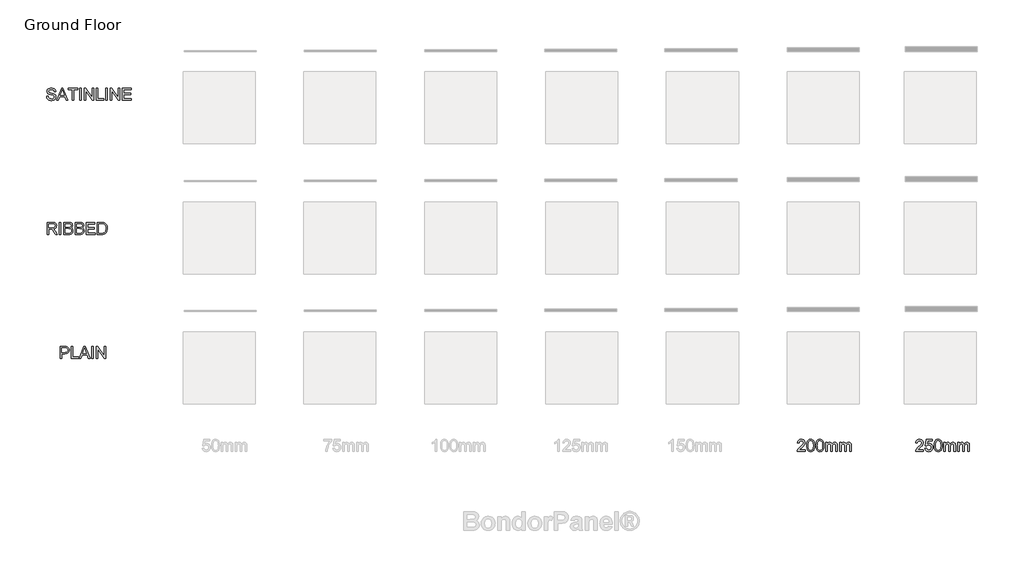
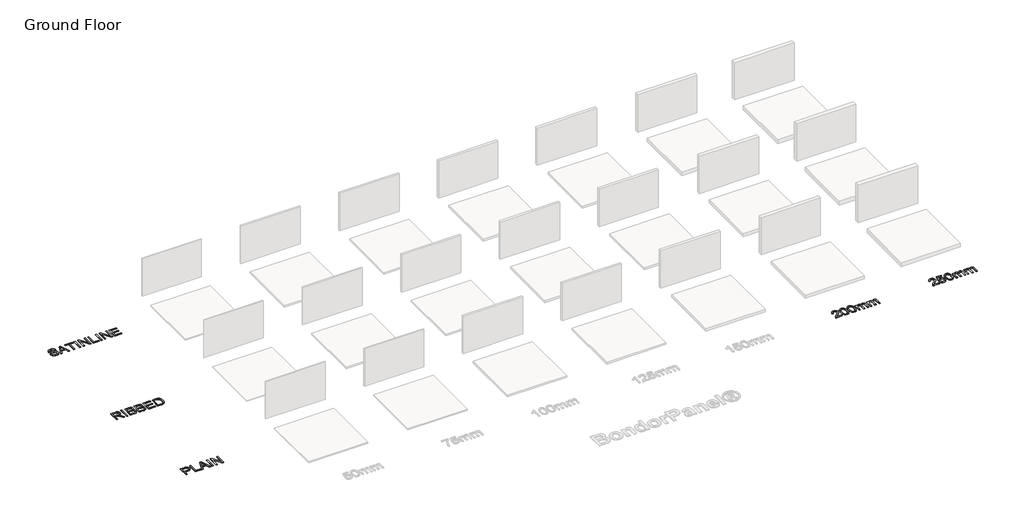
# One storey, part 3 of 3: 5 proxies.
"""IFC4 building model written with IfcOpenShell, lengths in millimetres."""

import ifcopenshell
import ifcopenshell.guid

model = None  # the IFC model being written
_history = None  # IfcOwnerHistory: only IFC2X3 demands one
_inside = {}  # id of a spatial element -> (the spatial element, [elements in it])
_under = {}  # id of a project, library or spatial element -> (it, [spatial elements below it])
_declared = {}  # id of a project -> (the project, [libraries it declares])
_typed = {}  # id of a type object -> (the type object, [elements of that type])
_made_of = {}  # id of a material, layer set ... -> (it, [elements and type objects made of it])


def new_model(schema):
    """Start an empty IFC model of exactly this schema.

    Asked for "IFC4X3", IfcOpenShell would pick the latest addendum, in which some entities
    have other attributes; the version numbers below select the first issue.
    IFC2X3 requires an IfcOwnerHistory on every rooted entity: one is made here for all.
    """
    global model, _history
    if schema == "IFC4X3":
        model = ifcopenshell.file(schema_version=(4, 3, 0, 0))
    else:
        model = ifcopenshell.file(schema=schema)
    _inside.clear()
    _under.clear()
    _declared.clear()
    _typed.clear()
    _made_of.clear()
    _history = None
    if model.schema == "IFC2X3":
        org = make("IfcOrganization", Name="unknown")
        user = make(
            "IfcPersonAndOrganization",
            ThePerson=make("IfcPerson", FamilyName="unknown"),
            TheOrganization=org,
        )
        app = make(
            "IfcApplication",
            ApplicationDeveloper=org,
            Version="unknown",
            ApplicationFullName="unknown",
            ApplicationIdentifier="unknown",
        )
        _history = make(
            "IfcOwnerHistory",
            OwningUser=user,
            OwningApplication=app,
            ChangeAction="ADDED",
            CreationDate=0,
        )
    return model


def make(cls, **values):
    """One entity of the class cls with the attributes given. An attribute that is None is left unset."""
    return model.create_entity(
        cls, **{name: value for name, value in values.items() if value is not None}
    )


def rooted(cls, **values):
    """An entity with a GlobalId (a new one), such as an element, a storey or a relation."""
    return make(cls, GlobalId=ifcopenshell.guid.new(), OwnerHistory=_history, **values)


def si_unit(unit_type, name, prefix=None):
    """IfcSIUnit, for example si_unit("LENGTHUNIT", "METRE", prefix="MILLI")."""
    return make("IfcSIUnit", UnitType=unit_type, Prefix=prefix, Name=name)


def assignment(units):
    """IfcUnitAssignment: the units of a project."""
    return None if units is None else make("IfcUnitAssignment", Units=units)


def point(xyz):
    """IfcCartesianPoint."""
    return None if xyz is None else make("IfcCartesianPoint", Coordinates=xyz)


def direction(xyz):
    """IfcDirection."""
    return None if xyz is None else make("IfcDirection", DirectionRatios=xyz)


def frame(location, z_axis=None, x_axis=None):
    """IfcAxis2Placement3D, a coordinate frame: its origin and axes. An axis left out is left unset."""
    return make(
        "IfcAxis2Placement3D",
        Location=point(location),
        Axis=direction(z_axis),
        RefDirection=direction(x_axis),
    )


def origin():
    """The frame at (0, 0, 0) with its axes left unset."""
    return frame((0.0, 0.0, 0.0))


def origin_with_axes():
    """The frame at (0, 0, 0) with the z axis (0, 0, 1) and the x axis (1, 0, 0) written out."""
    return frame((0.0, 0.0, 0.0), z_axis=(0.0, 0.0, 1.0), x_axis=(1.0, 0.0, 0.0))


def place(relative_to, where):
    """IfcLocalPlacement: puts the frame where relative to a parent placement (None: the world)."""
    return make(
        "IfcLocalPlacement", PlacementRelTo=relative_to, RelativePlacement=where
    )


def context(
    kind, dimensions, precision=None, world=None, true_north=None, identifier=None
):
    """IfcGeometricRepresentationContext, for example the 3D "Model" context."""
    return make(
        "IfcGeometricRepresentationContext",
        ContextIdentifier=identifier,
        ContextType=kind,
        CoordinateSpaceDimension=dimensions,
        Precision=precision,
        WorldCoordinateSystem=world,
        TrueNorth=true_north,
    )


def project(units=None, contexts=None):
    """IfcProject with its units and contexts."""
    return rooted(
        "IfcProject",
        Name="project",
        RepresentationContexts=contexts,
        UnitsInContext=assignment(units),
    )


def spatial(cls, under=None, at=None, **own):
    """A site, building, storey or space (cls), placed at a placement, below another one or the project."""
    s = rooted(cls, ObjectPlacement=at, **own)
    if under is not None:
        _under.setdefault(under.id(), (under, []))[1].append(s)
    return s


def polyline(points):
    """IfcPolyline through the points."""
    return make("IfcPolyline", Points=[point(p) for p in points])


def outline(outer, holes=None, kind="AREA"):
    """IfcArbitraryClosedProfileDef: a profile drawn as a closed curve; with holes, ...WithVoids."""
    if holes is None:
        return make("IfcArbitraryClosedProfileDef", ProfileType=kind, OuterCurve=outer)
    return make(
        "IfcArbitraryProfileDefWithVoids",
        ProfileType=kind,
        OuterCurve=outer,
        InnerCurves=holes,
    )


def extrude(swept, where, along, depth):
    """IfcExtrudedAreaSolid: the profile swept, set in the frame where, extruded along a direction by depth."""
    return make(
        "IfcExtrudedAreaSolid",
        SweptArea=swept,
        Position=where,
        ExtrudedDirection=direction(along),
        Depth=depth,
    )


def shape(context_of_items, identifier, shape_type, items):
    """IfcShapeRepresentation: the items that make up one representation, for example the "Body"."""
    return make(
        "IfcShapeRepresentation",
        ContextOfItems=context_of_items,
        RepresentationIdentifier=identifier,
        RepresentationType=shape_type,
        Items=items,
    )


def made_of(thing, what):
    """Note that an element or type object is made of a material, layer set ...; save() writes the relation."""
    if what is not None:
        _made_of.setdefault(what.id(), (what, []))[1].append(thing)
    return thing


def element(
    cls,
    number,
    at=None,
    inside=None,
    cuts=None,
    type_object=None,
    material=None,
    context=None,
    identifier="Body",
    shape_type=None,
    held_by="IfcProductDefinitionShape",
    body=None,
    shapes=None,
    **own,
):
    """One element of the class cls, such as IfcWall. Its Tag is "e" and its number.

    at: its placement. inside: the storey or other place that contains it. cuts: it is an
    opening in that element (IfcRelVoidsElement). A single representation is given by context,
    identifier, shape_type and body (its items); several are given by shapes. held_by: the class
    of the entity that holds the representations. save() writes the other relations.
    """
    e = rooted(cls, Tag="e%d" % number, ObjectPlacement=at, **own)
    if body is not None:
        shapes = [shape(context, identifier, shape_type, body)]
    if shapes is not None:
        e.Representation = make(held_by, Representations=shapes)
    if inside is not None:
        _inside.setdefault(inside.id(), (inside, []))[1].append(e)
    if cuts is not None:
        rooted(
            "IfcRelVoidsElement", RelatingBuildingElement=cuts, RelatedOpeningElement=e
        )
    if type_object is not None:
        _typed.setdefault(type_object.id(), (type_object, []))[1].append(e)
    return made_of(e, material)


def aggregate(whole, parts):
    """IfcRelAggregates: a whole, such as a stair, and the parts it consists of."""
    return rooted("IfcRelAggregates", RelatingObject=whole, RelatedObjects=parts)


def save(model, path):
    """Write the relations noted so far, then the file.

    IfcRelAggregates (storeys below a building ...), IfcRelContainedInSpatialStructure (elements
    in a storey), IfcRelDefinesByType, IfcRelAssociatesMaterial and IfcRelDeclares: one each for
    every whole, place, type object, material and project.
    """
    for whole, parts in _under.values():
        aggregate(whole, parts)
    for where, things in _inside.values():
        rooted(
            "IfcRelContainedInSpatialStructure",
            RelatedElements=things,
            RelatingStructure=where,
        )
    for kind, things in _typed.values():
        rooted("IfcRelDefinesByType", RelatedObjects=things, RelatingType=kind)
    for what, things in _made_of.values():
        rooted("IfcRelAssociatesMaterial", RelatedObjects=things, RelatingMaterial=what)
    for by, libraries in _declared.values():
        rooted("IfcRelDeclares", RelatingContext=by, RelatedDefinitions=libraries)
    model.write(path)


model = new_model("IFC4")

# Units and contexts
model_context = context("Model", 3, world=origin())
ifc_project = project(units=[si_unit("LENGTHUNIT", "METRE", prefix="MILLI")], contexts=[model_context])

# Site, building, storey
site = spatial("IfcSite", under=ifc_project)
building = spatial("IfcBuilding", under=site)
storey = spatial("IfcBuildingStorey", under=building, Name="Ground Floor", Elevation=0.0)

# Proxies
placement = place(None, origin())
element("IfcBuildingElementProxy", 1, Name="600mm Arial", ObjectType="600mm Arial", at=placement, inside=storey, context=model_context, shape_type="SweptSolid", body=[
    extrude(outline(polyline([(-15403.839663, 2151.9959966), (-15403.839663, 2754.7338575), (-15180.4617155, 2754.7338575), (-15128.4432014, 2753.2991177), (-15090.4042031, 2748.9948984), (-15050.2498833, 2738.2711382), (-15017.1956861, 2720.8151376), (-14990.5794237, 2695.8359501), (-14969.7389087, 2662.5426295), (-14956.2744277, 2623.2712265), (-14951.7862673, 2580.3577918), (-14954.8166953, 2543.3580601), (-14963.9079791, 2509.3197785), (-14979.0601187, 2478.242947), (-15000.2731143, 2450.1275655), (-15029.3955727, 2426.8222411), (-15068.2761011, 2410.1755808), (-15116.9146994, 2400.1875847), (-15175.3113676, 2396.8582526), (-15328.4974304, 2396.8582526), (-15328.4974304, 2151.9959966), (-15403.839663, 2151.9959966)]), holes=[polyline([(-15328.4974304, 2472.2004852), (-15170.8967836, 2472.2004852), (-15134.6604071, 2473.9295306), (-15104.0894133, 2479.1166667), (-15079.1838023, 2487.7618936), (-15059.9435739, 2499.8652113), (-15045.586979, 2515.1047229), (-15035.3322684, 2533.1585318), (-15029.1794421, 2554.026638), (-15027.1284999, 2577.7090414), (-15031.9661482, 2611.554185), (-15046.4790929, 2640.1018278), (-15068.8647123, 2661.5861363), (-15097.3203846, 2674.241277), (-15126.3830622, 2678.1040379), (-15172.6626172, 2679.3916249), (-15328.4974304, 2679.3916249), (-15328.4974304, 2472.2004852)])]), origin_with_axes(), (0.0, 0.0, 1.0), 20.0),
    extrude(outline(polyline([(-14848.1906975, 2151.9959966), (-14848.1906975, 2754.7338575), (-14772.8484649, 2754.7338575), (-14772.8484649, 2227.3382292), (-14471.4795344, 2227.3382292), (-14471.4795344, 2151.9959966), (-14848.1906975, 2151.9959966)])), origin_with_axes(), (0.0, 0.0, 1.0), 20.0),
    extrude(outline(polyline([(-14456.9114074, 2151.9959966), (-14216.3165826, 2754.7338575), (-14152.1579626, 2754.7338575), (-13911.5631378, 2151.9959966), (-13991.1728015, 2151.9959966), (-14060.1874638, 2340.3515782), (-14308.4342342, 2340.3515782), (-14377.3017437, 2151.9959966), (-14456.9114074, 2151.9959966)]), holes=[polyline([(-14280.7695081, 2415.6938108), (-14087.705037, 2415.6938108), (-14142.0044195, 2563.8766784), (-14184.2372726, 2679.3916249), (-14221.7612361, 2576.8261247), (-14280.7695081, 2415.6938108)])]), origin_with_axes(), (0.0, 0.0, 1.0), 20.0),
    extrude(outline(polyline([(-13821.6527781, 2151.9959966), (-13821.6527781, 2754.7338575), (-13746.3105455, 2754.7338575), (-13746.3105455, 2151.9959966), (-13821.6527781, 2151.9959966)])), origin_with_axes(), (0.0, 0.0, 1.0), 20.0),
    extrude(outline(polyline([(-13595.6260803, 2151.9959966), (-13595.6260803, 2754.7338575), (-13514.986347, 2754.7338575), (-13200.0793591, 2277.2230278), (-13200.0793591, 2754.7338575), (-13124.7371265, 2754.7338575), (-13124.7371265, 2151.9959966), (-13205.3768598, 2151.9959966), (-13520.2838477, 2629.6539792), (-13520.2838477, 2151.9959966), (-13595.6260803, 2151.9959966)])), origin_with_axes(), (0.0, 0.0, 1.0), 20.0),
])
element("IfcBuildingElementProxy", 2, Name="600mm Arial", ObjectType="600mm Arial", at=placement, inside=storey, context=model_context, shape_type="SweptSolid", body=[
    extrude(outline(polyline([(-16053.6664193, 8356.7959966), (-16053.6664193, 8959.5338575), (-15793.9417307, 8959.5338575), (-15724.1361221, 8955.4687615), (-15673.3500127, 8943.2734733), (-15653.7510994, 8933.5797828), (-15636.2307193, 8920.7590952), (-15620.7888726, 8904.8114107), (-15607.4255591, 8885.7367293), (-15596.6420181, 8864.5605219), (-15588.9394889, 8842.3082598), (-15584.3179713, 8818.9799427), (-15582.7774654, 8794.5755709), (-15585.3296468, 8763.618301), (-15592.9861908, 8735.1994169), (-15605.7470975, 8709.3189185), (-15623.6123669, 8685.9768059), (-15646.8119252, 8665.9180401), (-15675.5756987, 8649.8875822), (-15709.9036874, 8637.8854321), (-15749.7958913, 8629.9115898), (-15724.9638566, 8613.6879939), (-15706.974427, 8597.6851271), (-15676.1091276, 8561.0808685), (-15645.9060158, 8520.1356025), (-15545.4006547, 8356.7959966), (-15632.9565696, 8356.7959966), (-15711.389011, 8481.7287222), (-15768.0428382, 8564.4285947), (-15789.1040824, 8588.5432595), (-15807.8476701, 8603.4976626), (-15843.6793764, 8617.8450604), (-15887.3837575, 8620.4938108), (-15978.3241867, 8620.4938108), (-15978.3241867, 8356.7959966), (-16053.6664193, 8356.7959966)]), holes=[polyline([(-15978.3241867, 8695.8360434), (-15809.6870801, 8695.8360434), (-15761.2554154, 8698.5031878), (-15723.6762696, 8706.5046212), (-15695.3861442, 8720.3737725), (-15674.8215406, 8740.6440704), (-15662.2951587, 8765.1634054), (-15658.1196981, 8791.7796677), (-15660.1108594, 8811.0474872), (-15666.0843433, 8828.531079), (-15676.0401497, 8844.2304432), (-15689.9782788, 8858.1455796), (-15708.2206273, 8869.5407245), (-15731.0890918, 8877.6801136), (-15758.5836724, 8882.5637471), (-15790.7043691, 8884.1916249), (-15978.3241867, 8884.1916249), (-15978.3241867, 8695.8360434)])]), origin_with_axes(), (0.0, 0.0, 1.0), 20.0),
    extrude(outline(polyline([(-15441.5107793, 8356.7959966), (-15441.5107793, 8959.5338575), (-15366.1685467, 8959.5338575), (-15366.1685467, 8356.7959966), (-15441.5107793, 8356.7959966)])), origin_with_axes(), (0.0, 0.0, 1.0), 20.0),
    extrude(outline(polyline([(-15215.4840815, 8356.7959966), (-15215.4840815, 8959.5338575), (-14985.4842581, 8959.5338575), (-14922.226949, 8955.1008795), (-14872.8387912, 8941.8019454), (-14852.7616313, 8931.7449713), (-14834.9837339, 8919.3059613), (-14819.5050989, 8904.4849155), (-14806.3257264, 8887.2818337), (-14788.2811146, 8849.6107174), (-14782.2662439, 8810.1737675), (-14787.3246214, 8773.8822087), (-14802.4997537, 8739.7611536), (-14827.9020054, 8709.9075297), (-14863.6417413, 8686.4182643), (-14840.9020354, 8676.7245737), (-14820.9490357, 8664.1246154), (-14803.7827421, 8648.6183893), (-14789.4031546, 8630.2058954), (-14778.0401995, 8609.4481539), (-14769.923803, 8586.9061846), (-14765.0539651, 8562.5799877), (-14763.4306858, 8536.4695631), (-14767.8636638, 8494.4390451), (-14781.162598, 8455.4619477), (-14801.0098316, 8422.31578), (-14825.0877082, 8397.7780509), (-14854.5734501, 8380.0093505), (-14890.6442797, 8367.1702689), (-14934.4774194, 8359.3895647), (-14987.2500917, 8356.7959966), (-15215.4840815, 8356.7959966)]), holes=[polyline([(-15140.1418489, 8432.1382292), (-14985.6314109, 8432.1382292), (-14929.7133476, 8435.0812852), (-14903.7592729, 8441.6111906), (-14882.403723, 8451.4888222), (-14865.0396929, 8465.6338849), (-14851.060177, 8484.9660837), (-14841.8447331, 8508.620896), (-14838.7729184, 8535.7337991), (-14842.378162, 8567.2244979), (-14853.1938926, 8594.3006127), (-14872.0846331, 8615.4722215), (-14899.914906, 8629.2494023), (-14939.3334618, 8636.8093773), (-14992.9890508, 8639.3293689), (-15140.1418489, 8639.3293689), (-15140.1418489, 8432.1382292)]), polyline([(-15140.1418489, 8714.6716015), (-15002.5539827, 8714.6716015), (-14954.4350177, 8716.2902823), (-14922.2085549, 8721.1463246), (-14894.0839764, 8732.3115432), (-14873.8688607, 8749.0317799), (-14861.6735726, 8771.0495173), (-14857.6084766, 8798.107238), (-14861.3976611, 8824.3740125), (-14872.7652148, 8847.2562726), (-14891.1961027, 8865.1169435), (-14916.1752902, 8876.3189502), (-14954.5085941, 8882.2234562), (-15013.0018313, 8884.1916249), (-15140.1418489, 8884.1916249), (-15140.1418489, 8714.6716015)])]), origin_with_axes(), (0.0, 0.0, 1.0), 20.0),
    extrude(outline(polyline([(-14659.8351159, 8356.7959966), (-14659.8351159, 8959.5338575), (-14429.8352926, 8959.5338575), (-14366.5779835, 8955.1008795), (-14317.1898256, 8941.8019454), (-14297.1126658, 8931.7449713), (-14279.3347683, 8919.3059613), (-14263.8561334, 8904.4849155), (-14250.6767609, 8887.2818337), (-14232.632149, 8849.6107174), (-14226.6172784, 8810.1737675), (-14231.6756559, 8773.8822087), (-14246.8507882, 8739.7611536), (-14272.2530399, 8709.9075297), (-14307.9927758, 8686.4182643), (-14285.2530699, 8676.7245737), (-14265.3000702, 8664.1246154), (-14248.1337766, 8648.6183893), (-14233.7541891, 8630.2058954), (-14222.391234, 8609.4481539), (-14214.2748375, 8586.9061846), (-14209.4049996, 8562.5799877), (-14207.7817203, 8536.4695631), (-14212.2146983, 8494.4390451), (-14225.5136324, 8455.4619477), (-14245.3608661, 8422.31578), (-14269.4387427, 8397.7780509), (-14298.9244846, 8380.0093505), (-14334.9953142, 8367.1702689), (-14378.8284539, 8359.3895647), (-14431.6011261, 8356.7959966), (-14659.8351159, 8356.7959966)]), holes=[polyline([(-14584.4928833, 8432.1382292), (-14429.9824454, 8432.1382292), (-14374.0643821, 8435.0812852), (-14348.1103073, 8441.6111906), (-14326.7547575, 8451.4888222), (-14309.3907273, 8465.6338849), (-14295.4112115, 8484.9660837), (-14286.1957675, 8508.620896), (-14283.1239529, 8535.7337991), (-14286.7291964, 8567.2244979), (-14297.5449271, 8594.3006127), (-14316.4356676, 8615.4722215), (-14344.2659405, 8629.2494023), (-14383.6844963, 8636.8093773), (-14437.3400853, 8639.3293689), (-14584.4928833, 8639.3293689), (-14584.4928833, 8432.1382292)]), polyline([(-14584.4928833, 8714.6716015), (-14446.9050171, 8714.6716015), (-14398.7860522, 8716.2902823), (-14366.5595894, 8721.1463246), (-14338.4350109, 8732.3115432), (-14318.2198952, 8749.0317799), (-14306.0246071, 8771.0495173), (-14301.959511, 8798.107238), (-14305.7486956, 8824.3740125), (-14317.1162492, 8847.2562726), (-14335.5471372, 8865.1169435), (-14360.5263247, 8876.3189502), (-14398.8596286, 8882.2234562), (-14457.3528658, 8884.1916249), (-14584.4928833, 8884.1916249), (-14584.4928833, 8714.6716015)])]), origin_with_axes(), (0.0, 0.0, 1.0), 20.0),
    extrude(outline(polyline([(-14104.1861504, 8356.7959966), (-14104.1861504, 8959.5338575), (-13670.9683129, 8959.5338575), (-13670.9683129, 8884.1916249), (-14028.8439178, 8884.1916249), (-14028.8439178, 8705.2538225), (-13689.8038711, 8705.2538225), (-13689.8038711, 8629.9115898), (-14028.8439178, 8629.9115898), (-14028.8439178, 8432.1382292), (-13661.5505338, 8432.1382292), (-13661.5505338, 8356.7959966), (-14104.1861504, 8356.7959966)])), origin_with_axes(), (0.0, 0.0, 1.0), 20.0),
    extrude(outline(polyline([(-13548.5371849, 8356.7959966), (-13548.5371849, 8959.5338575), (-13340.6102812, 8959.5338575), (-13278.4750123, 8957.3633537), (-13233.0415859, 8950.8518424), (-13184.9961973, 8934.1132117), (-13144.4556014, 8907.7360726), (-13122.1159673, 8886.1781877), (-13102.7745714, 8861.8243996), (-13086.4314137, 8834.6747084), (-13073.0864944, 8804.7291139), (-13062.7214191, 8772.2635279), (-13055.317794, 8737.5538616), (-13049.3948939, 8661.4022886), (-13053.4048076, 8596.7102398), (-13065.4345489, 8539.780501), (-13083.7550722, 8491.3120482), (-13106.6373323, 8452.003857), (-13132.9776832, 8420.9730107), (-13161.6724788, 8397.3365925), (-13194.6163115, 8379.8070154), (-13233.7037734, 8367.0966925), (-13279.0084412, 8359.3711706), (-13330.603891, 8356.7959966), (-13548.5371849, 8356.7959966)]), holes=[polyline([(-13473.1949523, 8432.1382292), (-13339.8745173, 8432.1382292), (-13284.7290062, 8434.860556), (-13242.9008233, 8443.0275363), (-13211.3365481, 8456.1609235), (-13186.9827601, 8473.7824711), (-13160.8079561, 8506.39521), (-13141.1446635, 8548.6096689), (-13128.8390107, 8600.6097889), (-13124.7371265, 8662.579511), (-13126.7466819, 8706.3206802), (-13132.7753481, 8744.6907723), (-13142.8231251, 8777.6897873), (-13156.8900129, 8805.3177251), (-13173.8355773, 8828.1999852), (-13192.5193841, 8846.961967), (-13212.9414333, 8861.6036704), (-13235.101725, 8872.1250955), (-13278.4382241, 8881.1749925), (-13341.9346564, 8884.1916249), (-13473.1949523, 8884.1916249), (-13473.1949523, 8432.1382292)])]), origin_with_axes(), (0.0, 0.0, 1.0), 20.0),
])
element("IfcBuildingElementProxy", 3, Name="600mm Arial", ObjectType="600mm Arial", at=placement, inside=storey, context=model_context, shape_type="SweptSolid", body=[
    extrude(outline(polyline([(27688.1049644, -2410.2451374), (27688.1049644, -2485.58737), (27292.5582432, -2485.58737), (27294.2137121, -2459.0630782), (27300.6516471, -2433.6424323), (27319.2296878, -2393.0466541), (27346.4161673, -2353.6648865), (27385.7427525, -2312.443709), (27440.7411108, -2266.3297009), (27522.0430318, -2194.1144652), (27570.8241843, -2140.8083641), (27585.0520205, -2119.02975), (27595.2147606, -2097.5454415), (27601.3124047, -2076.3554386), (27603.3449527, -2055.4597412), (27601.4273678, -2035.8010471), (27595.6746131, -2017.7334426), (27586.0866886, -2001.2569278), (27572.6635943, -1986.3715026), (27556.1502912, -1974.0428572), (27537.2917405, -1965.2366819), (27516.087942, -1959.9529768), (27492.5388957, -1958.1917417), (27467.7298537, -1959.9115901), (27445.5419709, -1965.071135), (27425.9752472, -1973.6703767), (27409.0296828, -1985.709315), (27395.32148, -2000.7832797), (27385.466841, -2018.4876007), (27379.465766, -2038.822278), (27377.3182549, -2061.7873116), (27301.9760222, -2052.3695325), (27308.4553439, -2013.4752085), (27320.2413633, -1979.4921092), (27337.3340805, -1950.4202346), (27359.7334955, -1926.2595845), (27386.9245735, -1907.2676765), (27418.3922796, -1893.702028), (27454.136614, -1885.5626388), (27494.1575765, -1882.8495091), (27534.537224, -1885.8661415), (27570.4746964, -1894.9160386), (27601.9699937, -1909.9992004), (27629.023116, -1931.1156269), (27650.7511463, -1956.7018196), (27666.271168, -1985.1942802), (27675.583181, -2016.5930085), (27678.6871853, -2050.8980045), (27675.3394591, -2086.9320459), (27665.2962807, -2122.340688), (27647.472398, -2158.3563353), (27620.7825593, -2196.2113926), (27578.2370065, -2241.4056957), (27512.8459819, -2299.4390805), (27426.1729838, -2371.9118335), (27392.1806875, -2410.2451374), (27688.1049644, -2410.2451374)])), origin_with_axes(), (0.0, 0.0, 1.0), 20.0),
    extrude(outline(polyline([(27763.447197, -2325.4851257), (27838.7894296, -2316.0673466), (27844.4180241, -2340.2877775), (27852.6217926, -2361.2984379), (27863.4007351, -2379.099328), (27876.7548515, -2393.6904476), (27892.6565508, -2405.0534027), (27911.0782417, -2413.1697993), (27932.0199242, -2418.0396372), (27955.4815985, -2419.6629165), (27984.1763941, -2417.4050407), (28009.4866754, -2410.6314135), (28031.4124423, -2399.3420348), (28049.9536948, -2383.5369045), (28064.6965658, -2363.9977721), (28075.2271879, -2341.5063866), (28081.5455612, -2316.0627481), (28083.6516856, -2287.6668566), (28081.6789184, -2260.8298651), (28075.7606168, -2236.9727177), (28065.8967808, -2216.0954144), (28052.0874104, -2198.1979554), (28034.2865204, -2183.8413605), (28012.4481254, -2173.5866499), (27986.5722256, -2167.4338235), (27956.6588209, -2165.3828814), (27920.1097446, -2168.6570312), (27890.5136381, -2178.4794804), (27866.8772199, -2193.525854), (27848.2072087, -2212.4717768), (27772.8649761, -2203.0539977), (27838.7894296, -1892.2672882), (28130.740581, -1892.2672882), (28130.740581, -1967.6095208), (27899.710688, -1967.6095208), (27867.4842252, -2133.597877), (27894.0728964, -2114.5415897), (27921.3053611, -2100.9299559), (27949.1816193, -2092.7629756), (27977.701671, -2090.0406488), (28014.3933015, -2093.4159661), (28048.0958908, -2103.541918), (28078.8094388, -2120.4185045), (28106.5339457, -2144.0457257), (28129.4851837, -2172.9796446), (28145.8789251, -2205.7763245), (28155.7151699, -2242.4357653), (28158.9939182, -2282.9579671), (28156.0416652, -2321.9902468), (28147.1849062, -2358.3001997), (28132.4236411, -2391.8878258), (28111.75787, -2422.7531252), (28080.4511122, -2454.3633857), (28043.9204301, -2476.9421431), (28002.1658237, -2490.4893976), (27955.1872929, -2495.0051491), (27916.3067645, -2492.1034798), (27881.1878296, -2483.3984721), (27849.830488, -2468.890126), (27822.2347398, -2448.5784413), (27799.2743048, -2423.4750936), (27781.8229027, -2394.5917585), (27769.8805334, -2361.9284359), (27763.447197, -2325.4851257)])), origin_with_axes(), (0.0, 0.0, 1.0), 20.0),
    extrude(outline(polyline([(28224.9183717, -2189.0744819), (28230.4549958, -2092.5974287), (28237.3757758, -2051.6843523), (28247.0648679, -2015.6549094), (28259.4808852, -1984.2147944), (28274.5824411, -1957.0697016), (28292.3695356, -1934.2196312), (28312.8421686, -1915.6645831), (28336.0693181, -1901.3079882), (28362.1199618, -1891.0532776), (28390.9940999, -1884.9004512), (28422.6917324, -1882.8495091), (28469.1184401, -1887.7055514), (28510.6891056, -1902.2736785), (28545.4539541, -1925.983673), (28571.4632112, -1958.2653181), (28591.1081097, -1998.8427022), (28606.7798827, -2047.4399138), (28617.0437904, -2109.1521184), (28620.465093, -2189.0744819), (28614.9836512, -2284.9997121), (28608.1318491, -2325.7748328), (28598.539326, -2361.7582904), (28586.2198777, -2393.212201), (28571.1872997, -2420.3986805), (28553.441592, -2443.3177288), (28532.9827545, -2461.9693459), (28509.7280139, -2476.4225098), (28483.5945967, -2486.7461983), (28454.5825028, -2492.9404114), (28422.6917324, -2495.0051491), (28381.1946433, -2491.4182996), (28344.4064438, -2480.6577513), (28312.3271338, -2462.723504), (28284.9567134, -2437.6155578), (28258.6899389, -2392.2281167), (28239.9279571, -2335.675457), (28228.6707681, -2267.9575787), (28224.9183717, -2189.0744819)]), holes=[polyline([(28300.2606044, -2188.9273291), (28302.4678963, -2254.4241198), (28309.0897722, -2307.4405138), (28320.1262321, -2347.9765112), (28335.5772759, -2376.0321118), (28354.2656812, -2395.1205889), (28375.0142258, -2408.7552153), (28397.8229095, -2416.9359912), (28422.6917324, -2419.6629165), (28447.5605552, -2416.9267941), (28470.3692389, -2408.7184271), (28491.1177835, -2395.0378154), (28509.8061888, -2375.884959), (28525.2572326, -2347.7833731), (28536.2936925, -2307.2565728), (28542.9155684, -2254.3045582), (28545.1228603, -2188.9273291), (28542.9891448, -2125.1641823), (28536.5879981, -2073.0812888), (28525.9194202, -2032.6786487), (28510.9834112, -2003.9562619), (28492.6077055, -1983.9342843), (28471.6200377, -1969.6328718), (28448.0204077, -1961.0520242), (28421.8088156, -1958.1917417), (28397.0687514, -1960.7117334), (28374.6463438, -1968.2717084), (28354.5415927, -1980.8716667), (28336.7544983, -1998.5116084), (28320.7884197, -2029.781578), (28309.3840778, -2071.9408546), (28302.5414727, -2124.9894383), (28300.2606044, -2188.9273291)])]), origin_with_axes(), (0.0, 0.0, 1.0), 20.0),
    extrude(outline(polyline([(28705.2251046, -2485.58737), (28705.2251046, -2042.9517534), (28780.5673373, -2042.9517534), (28780.5673373, -2115.7923885), (28803.2288682, -2082.333521), (28832.3651222, -2056.1219288), (28866.9828179, -2039.180963), (28906.088674, -2033.5339743), (28947.9904333, -2039.2913276), (28965.823513, -2046.4880191), (28981.5780594, -2056.5633872), (29006.6676115, -2084.2097192), (29023.0751485, -2121.0898892), (29050.5375394, -2082.7841764), (29081.8626913, -2055.422953), (29117.0506041, -2039.006219), (29156.1012779, -2033.5339743), (29186.263003, -2035.8102442), (29212.7367111, -2042.6390537), (29235.5224022, -2054.0204029), (29254.6200762, -2069.9542919), (29269.7170336, -2090.6246615), (29280.5005746, -2116.2154528), (29286.9706992, -2146.7266657), (29289.1274074, -2182.1583004), (29289.1274074, -2485.58737), (29213.7851748, -2485.58737), (29213.7851748, -2214.531916), (29212.0377353, -2176.9527702), (29206.7954169, -2151.6240948), (29196.9729676, -2134.2784587), (29181.4851356, -2120.6484308), (29161.5643256, -2111.8192629), (29138.4429422, -2108.8762069), (29117.0919909, -2110.7616022), (29097.6264348, -2116.4177879), (29080.046274, -2125.844764), (29064.3515083, -2139.0425306), (29051.4434488, -2156.3973637), (29042.2234063, -2178.2955394), (29036.6913808, -2204.7370578), (29034.8473723, -2235.7219189), (29034.8473723, -2485.58737), (28959.5051397, -2485.58737), (28959.5051397, -2206.1442065), (28955.1457381, -2163.5434714), (28949.696486, -2146.8232348), (28942.0675331, -2133.1564186), (28931.9553768, -2122.533826), (28919.0565143, -2114.9462599), (28903.3709458, -2110.3937202), (28884.8986711, -2108.8762069), (28855.8727817, -2112.9229089), (28829.1277606, -2125.0630147), (28807.0548409, -2145.0022189), (28792.0452555, -2172.4462157), (28783.4368168, -2210.5220022), (28780.5673373, -2262.3565753), (28780.5673373, -2485.58737), (28705.2251046, -2485.58737)])), origin_with_axes(), (0.0, 0.0, 1.0), 20.0),
    extrude(outline(polyline([(29402.1407563, -2485.58737), (29402.1407563, -2042.9517534), (29477.4829889, -2042.9517534), (29477.4829889, -2115.7923885), (29500.1445198, -2082.333521), (29529.2807738, -2056.1219288), (29563.8984696, -2039.180963), (29603.0043257, -2033.5339743), (29644.9060849, -2039.2913276), (29662.7391646, -2046.4880191), (29678.4937111, -2056.5633872), (29703.5832632, -2084.2097192), (29719.9908001, -2121.0898892), (29747.4531911, -2082.7841764), (29778.778343, -2055.422953), (29813.9662558, -2039.006219), (29853.0169296, -2033.5339743), (29883.1786547, -2035.8102442), (29909.6523628, -2042.6390537), (29932.4380538, -2054.0204029), (29951.5357279, -2069.9542919), (29966.6326853, -2090.6246615), (29977.4162263, -2116.2154528), (29983.8863509, -2146.7266657), (29986.0430591, -2182.1583004), (29986.0430591, -2485.58737), (29910.7008264, -2485.58737), (29910.7008264, -2214.531916), (29908.953387, -2176.9527702), (29903.7110685, -2151.6240948), (29893.8886193, -2134.2784587), (29878.4007873, -2120.6484308), (29858.4799772, -2111.8192629), (29835.3585938, -2108.8762069), (29814.0076425, -2110.7616022), (29794.5420865, -2116.4177879), (29776.9619256, -2125.844764), (29761.26716, -2139.0425306), (29748.3591005, -2156.3973637), (29739.139058, -2178.2955394), (29733.6070325, -2204.7370578), (29731.763024, -2235.7219189), (29731.763024, -2485.58737), (29656.4207914, -2485.58737), (29656.4207914, -2206.1442065), (29652.0613897, -2163.5434714), (29646.6121377, -2146.8232348), (29638.9831848, -2133.1564186), (29628.8710285, -2122.533826), (29615.972166, -2114.9462599), (29600.2865974, -2110.3937202), (29581.8143228, -2108.8762069), (29552.7884333, -2112.9229089), (29526.0434123, -2125.0630147), (29503.9704926, -2145.0022189), (29488.9609072, -2172.4462157), (29480.3524685, -2210.5220022), (29477.4829889, -2262.3565753), (29477.4829889, -2485.58737), (29402.1407563, -2485.58737)])), origin_with_axes(), (0.0, 0.0, 1.0), 20.0),
])
element("IfcBuildingElementProxy", 4, Name="600mm Arial", ObjectType="600mm Arial", at=placement, inside=storey, context=model_context, shape_type="SweptSolid", body=[
    extrude(outline(polyline([(21788.1049644, -2410.2451374), (21788.1049644, -2485.58737), (21392.5582432, -2485.58737), (21394.2137121, -2459.0630782), (21400.6516471, -2433.6424323), (21419.2296878, -2393.0466541), (21446.4161673, -2353.6648865), (21485.7427525, -2312.443709), (21540.7411108, -2266.3297009), (21622.0430318, -2194.1144652), (21670.8241843, -2140.8083641), (21685.0520205, -2119.02975), (21695.2147606, -2097.5454415), (21701.3124047, -2076.3554386), (21703.3449527, -2055.4597412), (21701.4273678, -2035.8010471), (21695.6746131, -2017.7334426), (21686.0866886, -2001.2569278), (21672.6635943, -1986.3715026), (21656.1502912, -1974.0428572), (21637.2917405, -1965.2366819), (21616.087942, -1959.9529768), (21592.5388957, -1958.1917417), (21567.7298537, -1959.9115901), (21545.5419709, -1965.071135), (21525.9752472, -1973.6703767), (21509.0296828, -1985.709315), (21495.32148, -2000.7832797), (21485.466841, -2018.4876007), (21479.465766, -2038.822278), (21477.3182549, -2061.7873116), (21401.9760222, -2052.3695325), (21408.4553439, -2013.4752085), (21420.2413633, -1979.4921092), (21437.3340805, -1950.4202346), (21459.7334955, -1926.2595845), (21486.9245735, -1907.2676765), (21518.3922796, -1893.702028), (21554.136614, -1885.5626388), (21594.1575765, -1882.8495091), (21634.537224, -1885.8661415), (21670.4746964, -1894.9160386), (21701.9699937, -1909.9992004), (21729.023116, -1931.1156269), (21750.7511463, -1956.7018196), (21766.271168, -1985.1942802), (21775.583181, -2016.5930085), (21778.6871853, -2050.8980045), (21775.3394591, -2086.9320459), (21765.2962807, -2122.340688), (21747.472398, -2158.3563353), (21720.7825593, -2196.2113926), (21678.2370065, -2241.4056957), (21612.8459819, -2299.4390805), (21526.1729838, -2371.9118335), (21492.1806875, -2410.2451374), (21788.1049644, -2410.2451374)])), origin_with_axes(), (0.0, 0.0, 1.0), 20.0),
    extrude(outline(polyline([(21863.447197, -2189.0744819), (21868.983821, -2092.5974287), (21875.9046011, -2051.6843523), (21885.5936931, -2015.6549094), (21898.0097104, -1984.2147944), (21913.1112663, -1957.0697016), (21930.8983608, -1934.2196312), (21951.3709938, -1915.6645831), (21974.5981433, -1901.3079882), (22000.6487871, -1891.0532776), (22029.5229252, -1884.9004512), (22061.2205576, -1882.8495091), (22107.6472654, -1887.7055514), (22149.2179308, -1902.2736785), (22183.9827794, -1925.983673), (22209.9920365, -1958.2653181), (22229.636935, -1998.8427022), (22245.308708, -2047.4399138), (22255.5726157, -2109.1521184), (22258.9939182, -2189.0744819), (22253.5124765, -2284.9997121), (22246.6606743, -2325.7748328), (22237.0681513, -2361.7582904), (22224.748703, -2393.212201), (22209.716125, -2420.3986805), (22191.9704172, -2443.3177288), (22171.5115798, -2461.9693459), (22148.2568391, -2476.4225098), (22122.1234219, -2486.7461983), (22093.1113281, -2492.9404114), (22061.2205576, -2495.0051491), (22019.7234685, -2491.4182996), (21982.935269, -2480.6577513), (21950.855959, -2462.723504), (21923.4855386, -2437.6155578), (21897.2187642, -2392.2281167), (21878.4567824, -2335.675457), (21867.1995933, -2267.9575787), (21863.447197, -2189.0744819)]), holes=[polyline([(21938.7894296, -2188.9273291), (21940.9967216, -2254.4241198), (21947.6185975, -2307.4405138), (21958.6550573, -2347.9765112), (21974.1061011, -2376.0321118), (21992.7945065, -2395.1205889), (22013.543051, -2408.7552153), (22036.3517347, -2416.9359912), (22061.2205576, -2419.6629165), (22086.0893805, -2416.9267941), (22108.8980642, -2408.7184271), (22129.6466087, -2395.0378154), (22148.3350141, -2375.884959), (22163.7860579, -2347.7833731), (22174.8225177, -2307.2565728), (22181.4443936, -2254.3045582), (22183.6516856, -2188.9273291), (22181.51797, -2125.1641823), (22175.1168233, -2073.0812888), (22164.4482454, -2032.6786487), (22149.5122364, -2003.9562619), (22131.1365308, -1983.9342843), (22110.148863, -1969.6328718), (22086.549233, -1961.0520242), (22060.3376408, -1958.1917417), (22035.5975766, -1960.7117334), (22013.175169, -1968.2717084), (21993.070418, -1980.8716667), (21975.2833235, -1998.5116084), (21959.3172449, -2029.781578), (21947.9129031, -2071.9408546), (21941.070298, -2124.9894383), (21938.7894296, -2188.9273291)])]), origin_with_axes(), (0.0, 0.0, 1.0), 20.0),
    extrude(outline(polyline([(22324.9183717, -2189.0744819), (22330.4549958, -2092.5974287), (22337.3757758, -2051.6843523), (22347.0648679, -2015.6549094), (22359.4808852, -1984.2147944), (22374.5824411, -1957.0697016), (22392.3695356, -1934.2196312), (22412.8421686, -1915.6645831), (22436.0693181, -1901.3079882), (22462.1199618, -1891.0532776), (22490.9940999, -1884.9004512), (22522.6917324, -1882.8495091), (22569.1184401, -1887.7055514), (22610.6891056, -1902.2736785), (22645.4539541, -1925.983673), (22671.4632112, -1958.2653181), (22691.1081097, -1998.8427022), (22706.7798827, -2047.4399138), (22717.0437904, -2109.1521184), (22720.465093, -2189.0744819), (22714.9836512, -2284.9997121), (22708.1318491, -2325.7748328), (22698.539326, -2361.7582904), (22686.2198777, -2393.212201), (22671.1872997, -2420.3986805), (22653.441592, -2443.3177288), (22632.9827545, -2461.9693459), (22609.7280139, -2476.4225098), (22583.5945967, -2486.7461983), (22554.5825028, -2492.9404114), (22522.6917324, -2495.0051491), (22481.1946433, -2491.4182996), (22444.4064438, -2480.6577513), (22412.3271338, -2462.723504), (22384.9567134, -2437.6155578), (22358.6899389, -2392.2281167), (22339.9279571, -2335.675457), (22328.6707681, -2267.9575787), (22324.9183717, -2189.0744819)]), holes=[polyline([(22400.2606044, -2188.9273291), (22402.4678963, -2254.4241198), (22409.0897722, -2307.4405138), (22420.1262321, -2347.9765112), (22435.5772759, -2376.0321118), (22454.2656812, -2395.1205889), (22475.0142258, -2408.7552153), (22497.8229095, -2416.9359912), (22522.6917324, -2419.6629165), (22547.5605552, -2416.9267941), (22570.3692389, -2408.7184271), (22591.1177835, -2395.0378154), (22609.8061888, -2375.884959), (22625.2572326, -2347.7833731), (22636.2936925, -2307.2565728), (22642.9155684, -2254.3045582), (22645.1228603, -2188.9273291), (22642.9891448, -2125.1641823), (22636.5879981, -2073.0812888), (22625.9194202, -2032.6786487), (22610.9834112, -2003.9562619), (22592.6077055, -1983.9342843), (22571.6200377, -1969.6328718), (22548.0204077, -1961.0520242), (22521.8088156, -1958.1917417), (22497.0687514, -1960.7117334), (22474.6463438, -1968.2717084), (22454.5415927, -1980.8716667), (22436.7544983, -1998.5116084), (22420.7884197, -2029.781578), (22409.3840778, -2071.9408546), (22402.5414727, -2124.9894383), (22400.2606044, -2188.9273291)])]), origin_with_axes(), (0.0, 0.0, 1.0), 20.0),
    extrude(outline(polyline([(22805.2251046, -2485.58737), (22805.2251046, -2042.9517534), (22880.5673373, -2042.9517534), (22880.5673373, -2115.7923885), (22903.2288682, -2082.333521), (22932.3651222, -2056.1219288), (22966.9828179, -2039.180963), (23006.088674, -2033.5339743), (23047.9904333, -2039.2913276), (23065.823513, -2046.4880191), (23081.5780594, -2056.5633872), (23106.6676115, -2084.2097192), (23123.0751485, -2121.0898892), (23150.5375394, -2082.7841764), (23181.8626913, -2055.422953), (23217.0506041, -2039.006219), (23256.1012779, -2033.5339743), (23286.263003, -2035.8102442), (23312.7367111, -2042.6390537), (23335.5224022, -2054.0204029), (23354.6200762, -2069.9542919), (23369.7170336, -2090.6246615), (23380.5005746, -2116.2154528), (23386.9706992, -2146.7266657), (23389.1274074, -2182.1583004), (23389.1274074, -2485.58737), (23313.7851748, -2485.58737), (23313.7851748, -2214.531916), (23312.0377353, -2176.9527702), (23306.7954169, -2151.6240948), (23296.9729676, -2134.2784587), (23281.4851356, -2120.6484308), (23261.5643256, -2111.8192629), (23238.4429422, -2108.8762069), (23217.0919909, -2110.7616022), (23197.6264348, -2116.4177879), (23180.046274, -2125.844764), (23164.3515083, -2139.0425306), (23151.4434488, -2156.3973637), (23142.2234063, -2178.2955394), (23136.6913808, -2204.7370578), (23134.8473723, -2235.7219189), (23134.8473723, -2485.58737), (23059.5051397, -2485.58737), (23059.5051397, -2206.1442065), (23055.1457381, -2163.5434714), (23049.696486, -2146.8232348), (23042.0675331, -2133.1564186), (23031.9553768, -2122.533826), (23019.0565143, -2114.9462599), (23003.3709458, -2110.3937202), (22984.8986711, -2108.8762069), (22955.8727817, -2112.9229089), (22929.1277606, -2125.0630147), (22907.0548409, -2145.0022189), (22892.0452555, -2172.4462157), (22883.4368168, -2210.5220022), (22880.5673373, -2262.3565753), (22880.5673373, -2485.58737), (22805.2251046, -2485.58737)])), origin_with_axes(), (0.0, 0.0, 1.0), 20.0),
    extrude(outline(polyline([(23502.1407563, -2485.58737), (23502.1407563, -2042.9517534), (23577.4829889, -2042.9517534), (23577.4829889, -2115.7923885), (23600.1445198, -2082.333521), (23629.2807738, -2056.1219288), (23663.8984696, -2039.180963), (23703.0043257, -2033.5339743), (23744.9060849, -2039.2913276), (23762.7391646, -2046.4880191), (23778.4937111, -2056.5633872), (23803.5832632, -2084.2097192), (23819.9908001, -2121.0898892), (23847.4531911, -2082.7841764), (23878.778343, -2055.422953), (23913.9662558, -2039.006219), (23953.0169296, -2033.5339743), (23983.1786547, -2035.8102442), (24009.6523628, -2042.6390537), (24032.4380538, -2054.0204029), (24051.5357279, -2069.9542919), (24066.6326853, -2090.6246615), (24077.4162263, -2116.2154528), (24083.8863509, -2146.7266657), (24086.0430591, -2182.1583004), (24086.0430591, -2485.58737), (24010.7008264, -2485.58737), (24010.7008264, -2214.531916), (24008.953387, -2176.9527702), (24003.7110685, -2151.6240948), (23993.8886193, -2134.2784587), (23978.4007873, -2120.6484308), (23958.4799772, -2111.8192629), (23935.3585938, -2108.8762069), (23914.0076425, -2110.7616022), (23894.5420865, -2116.4177879), (23876.9619256, -2125.844764), (23861.26716, -2139.0425306), (23848.3591005, -2156.3973637), (23839.139058, -2178.2955394), (23833.6070325, -2204.7370578), (23831.763024, -2235.7219189), (23831.763024, -2485.58737), (23756.4207914, -2485.58737), (23756.4207914, -2206.1442065), (23752.0613897, -2163.5434714), (23746.6121377, -2146.8232348), (23738.9831848, -2133.1564186), (23728.8710285, -2122.533826), (23715.972166, -2114.9462599), (23700.2865974, -2110.3937202), (23681.8143228, -2108.8762069), (23652.7884333, -2112.9229089), (23626.0434123, -2125.0630147), (23603.9704926, -2145.0022189), (23588.9609072, -2172.4462157), (23580.3524685, -2210.5220022), (23577.4829889, -2262.3565753), (23577.4829889, -2485.58737), (23502.1407563, -2485.58737)])), origin_with_axes(), (0.0, 0.0, 1.0), 20.0),
])
element("IfcBuildingElementProxy", 5, Name="600mm Arial", ObjectType="600mm Arial", at=placement, inside=storey, context=model_context, shape_type="SweptSolid", body=[
    extrude(outline(polyline([(-16081.9197565, 15263.9871363), (-16006.5775239, 15263.9871363), (-15997.932297, 15222.1773476), (-15982.2973122, 15188.5713273), (-15957.9067359, 15161.8998826), (-15922.9947346, 15140.8938207), (-15880.3204231, 15127.2637928), (-15832.6429166, 15122.7204502), (-15790.6675809, 15126.1601468), (-15753.9161696, 15136.4792368), (-15724.1361221, 15152.8131974), (-15703.0748779, 15174.2975059), (-15690.5484959, 15198.9639937), (-15686.3730353, 15224.844492), (-15689.5000322, 15250.0628028), (-15698.8810231, 15271.859811), (-15717.9373105, 15290.4562459), (-15750.0901969, 15306.0728366), (-15859.7926078, 15334.8412086), (-15931.8055084, 15353.8791018), (-15977.8827283, 15371.9972901), (-16015.3882977, 15397.3443596), (-16041.9677718, 15428.0625062), (-16057.8050917, 15463.4895423), (-16063.0841984, 15502.9632804), (-16061.451722, 15525.3994836), (-16056.5542929, 15547.0907257), (-16048.3919112, 15568.0370068), (-16036.9645767, 15588.2383269), (-16022.4010482, 15606.8715499), (-16004.8300844, 15623.11354), (-15984.2516853, 15636.9642971), (-15960.6658509, 15648.4238213), (-15907.6540554, 15663.8196828), (-15848.9768772, 15668.9516366), (-15785.4068684, 15663.5805595), (-15729.7831107, 15647.4673281), (-15705.4477167, 15635.465178), (-15684.0921669, 15620.9430362), (-15665.7164613, 15603.9009028), (-15650.3205998, 15584.3387777), (-15638.0241441, 15562.826878), (-15628.9466558, 15539.9354209), (-15623.0881351, 15515.6644063), (-15620.4485818, 15490.0138341), (-15695.7908144, 15490.0138341), (-15700.8307977, 15514.0549225), (-15709.6231774, 15534.969014), (-15722.1679534, 15552.7561084), (-15738.4651258, 15567.4162059), (-15758.8181972, 15578.8757301), (-15783.5306702, 15587.0611045), (-15812.6025449, 15591.9723291), (-15846.0338212, 15593.609404), (-15880.5319553, 15591.9907232), (-15910.0085002, 15587.1346809), (-15934.4634558, 15579.041277), (-15953.8968222, 15567.7105115), (-15968.7040725, 15554.0896807), (-15979.2806798, 15539.1260805), (-15985.6266443, 15522.8197111), (-15987.7419657, 15505.1705723), (-15986.2428466, 15489.986243), (-15981.7454892, 15476.2182593), (-15974.2498936, 15463.8666213), (-15963.7560597, 15452.931329), (-15947.2381581, 15442.5754509), (-15921.228901, 15432.1092081), (-15840.7363205, 15410.8456288), (-15757.668566, 15390.6489072), (-15707.4158854, 15373.0273597), (-15664.4656625, 15345.6937274), (-15647.8603889, 15329.6264813), (-15634.501674, 15311.9589485), (-15624.2331678, 15292.7830995), (-15616.8985205, 15272.1909048), (-15611.0308027, 15226.7574784), (-15612.7184613, 15203.1900381), (-15617.7814373, 15180.3123765), (-15626.2197306, 15158.1244937), (-15638.0333411, 15136.6263896), (-15653.0153354, 15116.6503972), (-15670.9587797, 15099.0288497), (-15691.8636741, 15083.7617469), (-15715.7300185, 15070.8490888), (-15741.8634357, 15060.5805826), (-15769.5695485, 15053.2459354), (-15829.6998606, 15047.3782175), (-15868.2400981, 15048.9601101), (-15903.5153829, 15053.7057879), (-15935.525715, 15061.6152508), (-15964.2710944, 15072.6884988), (-15989.9262651, 15086.9439261), (-16012.6659709, 15104.3999268), (-16032.4902119, 15125.0565008), (-16049.3989881, 15148.9136482), (-16063.019819, 15175.1988168), (-16072.980224, 15203.1394543), (-16079.2802032, 15232.7355608), (-16081.9197565, 15263.9871363)])), origin_with_axes(), (0.0, 0.0, 1.0), 20.0),
    extrude(outline(polyline([(-15568.2093384, 15056.7959966), (-15327.6145136, 15659.5338575), (-15263.4558936, 15659.5338575), (-15022.8610688, 15056.7959966), (-15102.4707325, 15056.7959966), (-15171.4853948, 15245.1515782), (-15419.7321652, 15245.1515782), (-15488.5996747, 15056.7959966), (-15568.2093384, 15056.7959966)]), holes=[polyline([(-15392.0674391, 15320.4938108), (-15199.0029681, 15320.4938108), (-15253.3023506, 15468.6766784), (-15295.5352036, 15584.1916249), (-15333.0591671, 15481.6261247), (-15392.0674391, 15320.4938108)])]), origin_with_axes(), (0.0, 0.0, 1.0), 20.0),
    extrude(outline(polyline([(-14791.684023, 15056.7959966), (-14791.684023, 15584.1916249), (-14989.4573836, 15584.1916249), (-14989.4573836, 15659.5338575), (-14518.5684298, 15659.5338575), (-14518.5684298, 15584.1916249), (-14716.3417904, 15584.1916249), (-14716.3417904, 15056.7959966), (-14791.684023, 15056.7959966)])), origin_with_axes(), (0.0, 0.0, 1.0), 20.0),
    extrude(outline(polyline([(-14424.390639, 15056.7959966), (-14424.390639, 15659.5338575), (-14349.0484064, 15659.5338575), (-14349.0484064, 15056.7959966), (-14424.390639, 15056.7959966)])), origin_with_axes(), (0.0, 0.0, 1.0), 20.0),
    extrude(outline(polyline([(-14198.3639412, 15056.7959966), (-14198.3639412, 15659.5338575), (-14117.7242079, 15659.5338575), (-13802.81722, 15182.0230278), (-13802.81722, 15659.5338575), (-13727.4749874, 15659.5338575), (-13727.4749874, 15056.7959966), (-13808.1147207, 15056.7959966), (-14123.0217086, 15534.4539792), (-14123.0217086, 15056.7959966), (-14198.3639412, 15056.7959966)])), origin_with_axes(), (0.0, 0.0, 1.0), 20.0),
    extrude(outline(polyline([(-13595.6260803, 15056.7959966), (-13595.6260803, 15659.5338575), (-13520.2838477, 15659.5338575), (-13520.2838477, 15132.1382292), (-13218.9149172, 15132.1382292), (-13218.9149172, 15056.7959966), (-13595.6260803, 15056.7959966)])), origin_with_axes(), (0.0, 0.0, 1.0), 20.0),
    extrude(outline(polyline([(-13124.7371265, 15056.7959966), (-13124.7371265, 15659.5338575), (-13049.3948939, 15659.5338575), (-13049.3948939, 15056.7959966), (-13124.7371265, 15056.7959966)])), origin_with_axes(), (0.0, 0.0, 1.0), 20.0),
    extrude(outline(polyline([(-12898.7104286, 15056.7959966), (-12898.7104286, 15659.5338575), (-12818.0706953, 15659.5338575), (-12503.1637074, 15182.0230278), (-12503.1637074, 15659.5338575), (-12427.8214748, 15659.5338575), (-12427.8214748, 15056.7959966), (-12508.4612082, 15056.7959966), (-12823.368196, 15534.4539792), (-12823.368196, 15056.7959966), (-12898.7104286, 15056.7959966)])), origin_with_axes(), (0.0, 0.0, 1.0), 20.0),
    extrude(outline(polyline([(-12295.9725677, 15056.7959966), (-12295.9725677, 15659.5338575), (-11862.7547302, 15659.5338575), (-11862.7547302, 15584.1916249), (-12220.6303351, 15584.1916249), (-12220.6303351, 15405.2538225), (-11881.5902884, 15405.2538225), (-11881.5902884, 15329.9115898), (-12220.6303351, 15329.9115898), (-12220.6303351, 15132.1382292), (-11853.3369511, 15132.1382292), (-11853.3369511, 15056.7959966), (-12295.9725677, 15056.7959966)])), origin_with_axes(), (0.0, 0.0, 1.0), 20.0),
])

save(model, "model.ifc")
